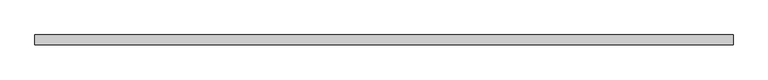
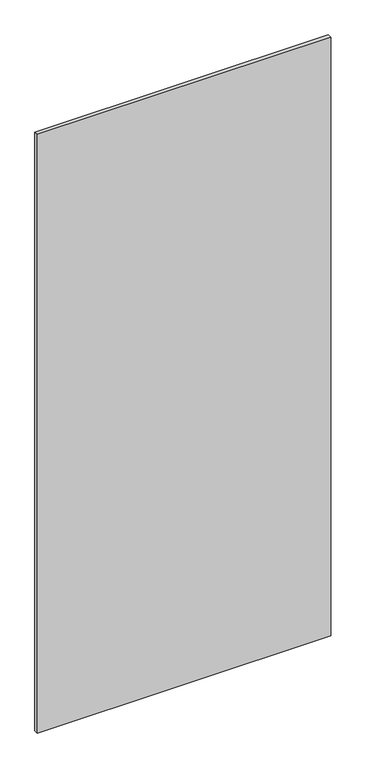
"""IFC4 building model written with IfcOpenShell, lengths in millimetres: plate geometry, 系统嵌板 : 玻璃."""

from ifc_helpers import new_model, si_unit, origin, origin_with_axes, place, context, project, spatial, polyline, outline, extrude, source, transform, mapped, element, save


def plate_b5b8d5f7(model_context):
    return source(origin(), model_context, "Body", "SweptSolid", [
        extrude(outline(polyline([(894.1666667, -12.5), (-894.1666667, -12.5), (-894.1666667, 12.5), (894.1666667, 12.5), (894.1666667, -12.5)])), origin_with_axes(), (0.0, 0.0, 1.0), 3855.0),
    ])


if __name__ == "__main__":
    model = new_model("IFC4")
    model_context = context("Model", 3, world=origin())
    ifc_project = project(units=[si_unit("LENGTHUNIT", "METRE", prefix="MILLI")], contexts=[model_context])
    site = spatial("IfcSite", under=ifc_project)
    building = spatial("IfcBuilding", under=site)
    placement = place(None, origin())
    plate_shape = plate_b5b8d5f7(model_context)
    element("IfcPlate", 1, ObjectType="系统嵌板 : 玻璃", at=placement, inside=building, context=model_context, shape_type="MappedRepresentation", body=[
        mapped(plate_shape, transform((0.0, 0.0, 0.0), x_axis=(1.0, 0.0, 0.0), y_axis=(0.0, 1.0, 0.0), z_axis=(0.0, 0.0, 1.0))),
    ])
    save(model, "model.ifc")
